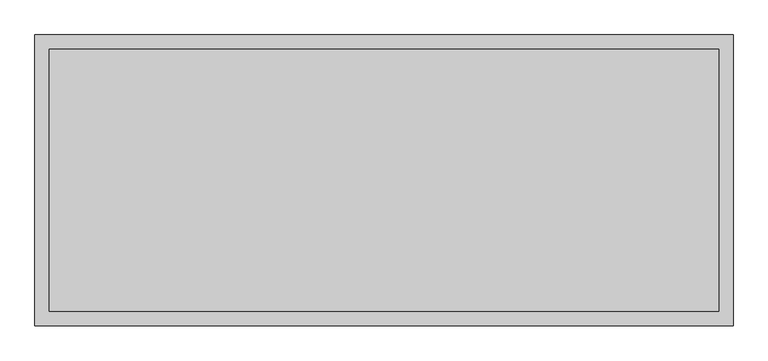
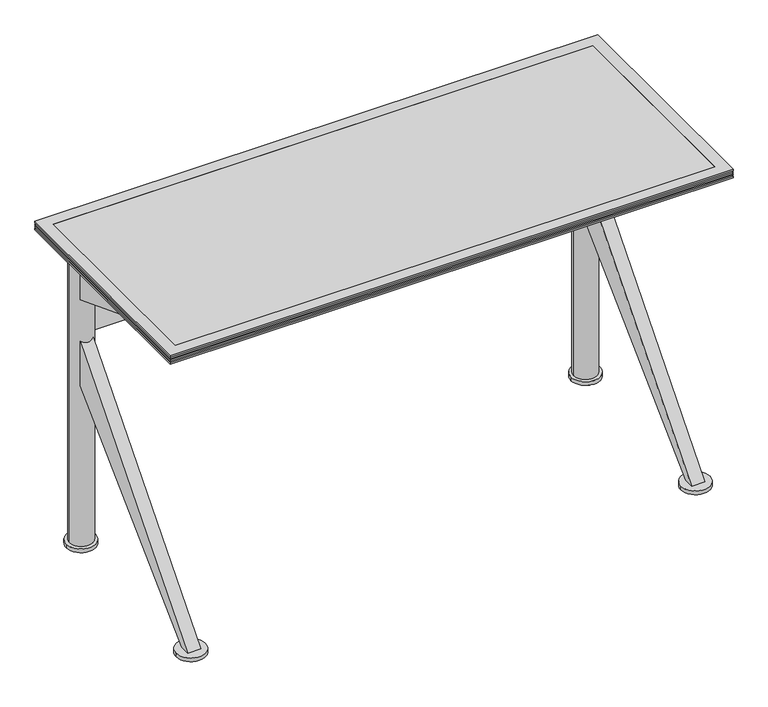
"""IFC4 building model written with IfcOpenShell, lengths in millimetres: furniture geometry, Coalesse_AM_Table_Conference_Ballet_Rectangular_KBase : Non Folding - 48L x 20W."""

from ifc_helpers import new_model, si_unit, point, frame, frame_2d, origin, origin_with_axes, place, context, project, spatial, polyline, circle_curve, trimmed, segment, composite_curve, outline, extrude, faceted_brep, source, transform, mapped, element, save
from ifc_brep_helpers import plane_surface, cylinder_surface, advanced_brep


def furniture_f6d11dd5(model_context):
    return source(origin(), model_context, "Body", "SolidModel", [
        extrude(outline(composite_curve([segment(trimmed(circle_curve(frame_2d((-547.0092495, -222.25)), 25.4), [point((-572.4092495, -222.25))], [point((-521.6092495, -222.25))], False, "CARTESIAN"), True, "CONTINUOUS"), segment(trimmed(circle_curve(frame_2d((-547.0092495, -222.25)), 25.4), [point((-521.6092495, -222.25))], [point((-572.4092495, -222.25))], False, "CARTESIAN"), True, "CONTINUOUS")], self_intersect=False)), origin_with_axes(), (0.0, 0.0, 1.0), 4.2936144),
        extrude(outline(composite_curve([segment(trimmed(circle_curve(frame_2d((546.2624629, -222.25)), 25.4), [point((520.8624629, -222.25))], [point((571.6624629, -222.25))], False, "CARTESIAN"), True, "CONTINUOUS"), segment(trimmed(circle_curve(frame_2d((546.2624629, -222.25)), 25.4), [point((571.6624629, -222.25))], [point((520.8624629, -222.25))], False, "CARTESIAN"), True, "CONTINUOUS")], self_intersect=False)), origin_with_axes(), (0.0, 0.0, 1.0), 4.2936144),
        extrude(outline(composite_curve([segment(trimmed(circle_curve(frame_2d((546.2154995, 189.815286)), 25.4), [point((571.6154995, 189.815286))], [point((520.8154995, 189.815286))], False, "CARTESIAN"), True, "CONTINUOUS"), segment(trimmed(circle_curve(frame_2d((546.2154995, 189.815286)), 25.4), [point((520.8154995, 189.815286))], [point((571.6154995, 189.815286))], False, "CARTESIAN"), True, "CONTINUOUS")], self_intersect=False)), origin_with_axes(), (0.0, 0.0, 1.0), 4.2936144),
        extrude(outline(composite_curve([segment(trimmed(circle_curve(frame_2d((-547.0562129, 189.815286)), 25.4), [point((-521.6562129, 189.815286))], [point((-572.4562129, 189.815286))], False, "CARTESIAN"), True, "CONTINUOUS"), segment(trimmed(circle_curve(frame_2d((-547.0562129, 189.815286)), 25.4), [point((-572.4562129, 189.815286))], [point((-521.6562129, 189.815286))], False, "CARTESIAN"), True, "CONTINUOUS")], self_intersect=False)), origin_with_axes(), (0.0, 0.0, 1.0), 4.2936144),
        extrude(outline(composite_curve([segment(trimmed(circle_curve(frame_2d((546.2154995, 189.815286)), 31.75), [point((577.9654995, 189.815286))], [point((514.4654995, 189.815286))], False, "CARTESIAN"), True, "CONTINUOUS"), segment(trimmed(circle_curve(frame_2d((546.2154995, 189.815286)), 31.75), [point((514.4654995, 189.815286))], [point((577.9654995, 189.815286))], False, "CARTESIAN"), True, "CONTINUOUS")], self_intersect=False)), frame((0.0, 0.0, 4.2936144), z_axis=(0.0, 0.0, 1.0), x_axis=(1.0, 0.0, 0.0)), (0.0, 0.0, 1.0), 8.4063856),
        extrude(outline(composite_curve([segment(trimmed(circle_curve(frame_2d((-547.0562129, 189.815286)), 31.75), [point((-515.3062129, 189.815286))], [point((-578.8062129, 189.815286))], False, "CARTESIAN"), True, "CONTINUOUS"), segment(trimmed(circle_curve(frame_2d((-547.0562129, 189.815286)), 31.75), [point((-578.8062129, 189.815286))], [point((-515.3062129, 189.815286))], False, "CARTESIAN"), True, "CONTINUOUS")], self_intersect=False)), frame((0.0, 0.0, 4.2936144), z_axis=(0.0, 0.0, 1.0), x_axis=(1.0, 0.0, 0.0)), (0.0, 0.0, 1.0), 8.4063856),
        extrude(outline(polyline([(169.4656271, 577.7388634), (-142.874901, 698.5000242), (-111.124901, 698.5000242), (169.4656271, 641.3500242), (169.4656271, 577.7388634)])), frame((-560.4007845, 0.0, 0.0), z_axis=(1.0, 0.0, 0.0), x_axis=(0.0, 1.0, 0.0)), (0.0, 0.0, 1.0), 28.5877899),
        extrude(outline(polyline([(169.4656271, 381.0), (-211.1375951, 12.7), (-233.3624013, 12.7), (169.4656271, 482.7111245), (169.4656271, 381.0)])), frame((-560.4007845, 0.0, 0.0), z_axis=(1.0, 0.0, 0.0), x_axis=(0.0, 1.0, 0.0)), (0.0, 0.0, 1.0), 28.5877899),
        extrude(outline(polyline([(169.4656271, 577.7388634), (-142.874901, 698.5000242), (-111.124901, 698.5000242), (169.4656271, 641.3500242), (169.4656271, 577.7388634)])), frame((531.8121992, 0.0, 0.0), z_axis=(1.0, 0.0, 0.0), x_axis=(0.0, 1.0, 0.0)), (0.0, 0.0, 1.0), 28.575),
        extrude(outline(polyline([(169.4656271, 381.0), (-211.1375951, 12.7), (-233.3624013, 12.7), (169.4656271, 482.7111245), (169.4656271, 381.0)])), frame((531.8121992, 0.0, 0.0), z_axis=(1.0, 0.0, 0.0), x_axis=(0.0, 1.0, 0.0)), (0.0, 0.0, 1.0), 28.575),
        advanced_brep(
        [(524.1033169, 177.8000021, 568.3250121), (-524.1033169, 177.8000021, 568.3250121), (-524.1033169, 177.8000021, 492.1250121), (524.1033169, 177.8000021, 492.1250121), (-520.7003634, 190.5, 492.1250121), (-524.1032635, 203.1999052, 492.1250121), (524.1032635, 203.1999052, 492.1250121), (520.7003634, 190.5, 492.1250121), (-524.1032635, 203.1999052, 568.3250121), (524.1032635, 203.1999052, 568.3250121), (520.7003634, 190.5, 568.3250121), (-520.7003634, 190.5, 568.3250121), (-571.5003633, 190.5, 698.5000242), (-520.7003634, 190.5, 698.5000242), (520.7003634, 190.5, 698.5000242), (571.5003633, 190.5, 698.5000242), (-571.5003633, 190.5, 12.7), (-520.7003634, 190.5, 12.7), (520.7003634, 190.5, 12.7), (571.5003633, 190.5, 12.7)],
        [
            (0, 1),
            (1, 2),
            (2, 3),
            (3, 0),
            (2, 4, circle_curve(frame((-546.1003633, 190.5, 492.1250121), z_axis=(0.0, 0.0, 1.0), x_axis=(1.0, 0.0, 0.0)), 25.3999999)),
            (4, 5, circle_curve(frame((-546.1003633, 190.5, 492.1250121), z_axis=(0.0, 0.0, 1.0), x_axis=(1.0, 0.0, 0.0)), 25.3999999)),
            (5, 6),
            (6, 7, circle_curve(frame((546.1003633, 190.5, 492.1250121), z_axis=(0.0, 0.0, 1.0), x_axis=(1.0, 0.0, 0.0)), 25.3999999)),
            (7, 3, circle_curve(frame((546.1003633, 190.5, 492.1250121), z_axis=(0.0, 0.0, 1.0), x_axis=(1.0, 0.0, 0.0)), 25.3999999)),
            (5, 8),
            (8, 9),
            (9, 6),
            (0, 10, circle_curve(frame((546.1003633, 190.5, 568.3250121), z_axis=(0.0, 0.0, -1.0), x_axis=(1.0, 0.0, 0.0)), 25.3999999)),
            (10, 9, circle_curve(frame((546.1003633, 190.5, 568.3250121), z_axis=(0.0, 0.0, -1.0), x_axis=(1.0, 0.0, 0.0)), 25.3999999)),
            (8, 11, circle_curve(frame((-546.1003633, 190.5, 568.3250121), z_axis=(0.0, 0.0, -1.0), x_axis=(1.0, 0.0, 0.0)), 25.3999999)),
            (11, 1, circle_curve(frame((-546.1003633, 190.5, 568.3250121), z_axis=(0.0, 0.0, -1.0), x_axis=(1.0, 0.0, 0.0)), 25.3999999)),
            (12, 13, circle_curve(frame((-546.1003633, 190.5, 698.5000242), z_axis=(0.0, 0.0, 1.0), x_axis=(1.0, 0.0, 0.0)), 25.3999999)),
            (13, 12, circle_curve(frame((-546.1003633, 190.5, 698.5000242), z_axis=(0.0, 0.0, 1.0), x_axis=(1.0, 0.0, 0.0)), 25.3999999)),
            (14, 15, circle_curve(frame((546.1003633, 190.5, 698.5000242), z_axis=(0.0, 0.0, 1.0), x_axis=(1.0, 0.0, 0.0)), 25.3999999)),
            (15, 14, circle_curve(frame((546.1003633, 190.5, 698.5000242), z_axis=(0.0, 0.0, 1.0), x_axis=(1.0, 0.0, 0.0)), 25.3999999)),
            (16, 17, circle_curve(frame((-546.1003633, 190.5, 12.7), z_axis=(0.0, 0.0, -1.0), x_axis=(1.0, 0.0, 0.0)), 25.3999999)),
            (17, 16, circle_curve(frame((-546.1003633, 190.5, 12.7), z_axis=(0.0, 0.0, -1.0), x_axis=(1.0, 0.0, 0.0)), 25.3999999)),
            (18, 19, circle_curve(frame((546.1003633, 190.5, 12.7), z_axis=(0.0, 0.0, -1.0), x_axis=(1.0, 0.0, 0.0)), 25.3999999)),
            (19, 18, circle_curve(frame((546.1003633, 190.5, 12.7), z_axis=(0.0, 0.0, -1.0), x_axis=(1.0, 0.0, 0.0)), 25.3999999)),
            (12, 16),
            (17, 4),
            (11, 13),
            (14, 10),
            (7, 18),
            (19, 15),
        ],
        [
            plane_surface(frame((531.8121992, 177.8000021, 568.3250121), z_axis=(0.0, -1.0, 0.0), x_axis=(-1.0, 0.0, 0.0))),
            plane_surface(frame((531.8121992, 177.8000021, 492.1250121), z_axis=(0.0, 0.0, -1.0), x_axis=(-1.0, 0.0, 0.0))),
            plane_surface(frame((531.8121992, 203.1999052, 492.1250121), z_axis=(0.0, 1.0, 0.0), x_axis=(-1.0, 0.0, 0.0))),
            plane_surface(frame((531.8121992, 203.1999052, 568.3250121), z_axis=(0.0, 0.0, 1.0), x_axis=(-1.0, 0.0, 0.0))),
            plane_surface(frame((-520.7003634, 190.5, 698.5000242), z_axis=(0.0, 0.0, 1.0), x_axis=(0.0, 1.0, 0.0))),
            plane_surface(frame((-520.7003634, 190.5, 12.7), z_axis=(0.0, 0.0, -1.0), x_axis=(0.0, -1.0, 0.0))),
            cylinder_surface(frame((-546.1003633, 190.5, 12.7), z_axis=(0.0, 0.0, 1.0), x_axis=(1.0, 0.0, 0.0)), 25.3999999),
            cylinder_surface(frame((546.1003633, 190.5, 0.0), z_axis=(0.0, 0.0, 1.0), x_axis=(1.0, 0.0, 0.0)), 25.3999999),
        ],
        [
            (0, [[1, 2, 3, 4]]),
            (1, [[-3, 5, 6, 7, 8, 9]]),
            (2, [[-7, 10, 11, 12]]),
            (3, [[-1, 13, 14, -11, 15, 16]]),
            (4, [[17, 18]]),
            (4, [[19, 20]]),
            (5, [[21, 22]]),
            (5, [[23, 24]]),
            (6, [[-17, 25, -22, 26, -5, -2, -16, 27]]),
            (6, [[-18, -27, -15, -10, -6, -26, -21, -25]]),
            (7, [[-19, 28, -13, -4, -9, 29, -24, 30]]),
            (7, [[-20, -30, -23, -29, -8, -12, -14, -28]]),
        ],
    ),
        extrude(outline(composite_curve([segment(trimmed(circle_curve(frame_2d((-547.0092495, -222.25)), 31.75), [point((-578.7592495, -222.25))], [point((-515.2592495, -222.25))], False, "CARTESIAN"), True, "CONTINUOUS"), segment(trimmed(circle_curve(frame_2d((-547.0092495, -222.25)), 31.75), [point((-515.2592495, -222.25))], [point((-578.7592495, -222.25))], False, "CARTESIAN"), True, "CONTINUOUS")], self_intersect=False)), frame((0.0, 0.0, 4.2936144), z_axis=(0.0, 0.0, 1.0), x_axis=(1.0, 0.0, 0.0)), (0.0, 0.0, 1.0), 8.4063856),
        extrude(outline(composite_curve([segment(trimmed(circle_curve(frame_2d((546.2624629, -222.25)), 31.75), [point((514.5124629, -222.25))], [point((578.0124629, -222.25))], False, "CARTESIAN"), True, "CONTINUOUS"), segment(trimmed(circle_curve(frame_2d((546.2624629, -222.25)), 31.75), [point((578.0124629, -222.25))], [point((514.5124629, -222.25))], False, "CARTESIAN"), True, "CONTINUOUS")], self_intersect=False)), frame((0.0, 0.0, 4.2936144), z_axis=(0.0, 0.0, 1.0), x_axis=(1.0, 0.0, 0.0)), (0.0, 0.0, 1.0), 8.4063856),
        faceted_brep([(-609.6003633, 254.0, 704.85), (-584.2003876, 228.6000242, 698.5000242), (-584.2003876, -228.5999516, 698.5000242), (-609.6003633, -253.9999273, 704.85), (-609.6003633, 254.0, 708.0250242), (-609.6003633, -253.9999273, 708.0250242), (-606.4253755, 250.8250121, 709.6125), (-606.4253755, -250.8249394, 709.6125), (-609.6003633, 254.0, 711.1999758), (-609.6003633, -253.9999273, 711.1999758), (-606.4253755, 250.8250121, 712.7875242), (-606.4253755, -250.8249394, 712.7875242), (-609.6003633, 254.0, 714.375), (-609.6003633, -253.9999273, 714.375), (-606.4253755, 250.8250121, 715.9624758), (-606.4253755, -250.8249394, 715.9624758), (-609.6003633, 254.0, 717.5500242), (-609.6003633, -253.9999273, 717.5500242), (-606.4253755, 250.8250121, 719.1375), (-606.4253755, -250.8249394, 719.1375), (-609.6003633, 254.0, 720.7249758), (-609.6003633, -253.9999273, 720.7249758), (-609.6003633, 254.0, 723.9), (-609.6003633, -253.9999273, 723.9), (-584.2003876, 228.6000242, 723.9), (-584.2003876, -228.5999516, 723.9), (584.1998062, -228.5999516, 698.5000242), (609.599782, -253.9999273, 704.85), (609.599782, -253.9999273, 708.0250242), (606.4247941, -250.8249394, 709.6125), (609.599782, -253.9999273, 711.1999758), (606.4247941, -250.8249394, 712.7875242), (609.599782, -253.9999273, 714.375), (606.4247941, -250.8249394, 715.9624758), (609.599782, -253.9999273, 717.5500242), (606.4247941, -250.8249394, 719.1375), (609.599782, -253.9999273, 720.7249758), (609.599782, -253.9999273, 723.9), (584.1998062, -228.5999516, 723.9), (584.1998062, 228.6000242, 698.5000242), (609.599782, 254.0, 704.85), (609.599782, 254.0, 708.0250242), (606.4247941, 250.8250121, 709.6125), (609.599782, 254.0, 711.1999758), (606.4247941, 250.8250121, 712.7875242), (609.599782, 254.0, 714.375), (606.4247941, 250.8250121, 715.9624758), (609.599782, 254.0, 717.5500242), (606.4247941, 250.8250121, 719.1375), (609.599782, 254.0, 720.7249758), (609.599782, 254.0, 723.9), (584.1998062, 228.6000242, 723.9)], [[[0, 1, 2, 3]], [[4, 0, 3, 5]], [[6, 4, 5, 7]], [[8, 6, 7, 9]], [[10, 8, 9, 11]], [[12, 10, 11, 13]], [[14, 12, 13, 15]], [[16, 14, 15, 17]], [[18, 16, 17, 19]], [[20, 18, 19, 21]], [[22, 20, 21, 23]], [[1, 24, 25, 2]], [[3, 2, 26, 27]], [[5, 3, 27, 28]], [[7, 5, 28, 29]], [[9, 7, 29, 30]], [[11, 9, 30, 31]], [[13, 11, 31, 32]], [[15, 13, 32, 33]], [[17, 15, 33, 34]], [[19, 17, 34, 35]], [[21, 19, 35, 36]], [[23, 21, 36, 37]], [[2, 25, 38, 26]], [[27, 26, 39, 40]], [[28, 27, 40, 41]], [[29, 28, 41, 42]], [[30, 29, 42, 43]], [[31, 30, 43, 44]], [[32, 31, 44, 45]], [[33, 32, 45, 46]], [[34, 33, 46, 47]], [[35, 34, 47, 48]], [[36, 35, 48, 49]], [[37, 36, 49, 50]], [[26, 38, 51, 39]], [[40, 39, 1, 0]], [[41, 40, 0, 4]], [[42, 41, 4, 6]], [[43, 42, 6, 8]], [[44, 43, 8, 10]], [[45, 44, 10, 12]], [[46, 45, 12, 14]], [[47, 46, 14, 16]], [[48, 47, 16, 18]], [[49, 48, 18, 20]], [[50, 49, 20, 22]], [[23, 37, 50, 22], [24, 51, 38, 25]], [[39, 51, 24, 1]]]),
        extrude(outline(polyline([(584.1998062, 228.6000242), (584.1998062, -228.5999516), (-584.2003876, -228.5999516), (-584.2003876, 228.6000242), (584.1998062, 228.6000242)])), frame((0.0, 0.0, 704.85), z_axis=(0.0, 0.0, 1.0), x_axis=(1.0, 0.0, 0.0)), (0.0, 0.0, 1.0), 19.05),
    ])


if __name__ == "__main__":
    model = new_model("IFC4")
    model_context = context("Model", 3, world=origin())
    ifc_project = project(units=[si_unit("LENGTHUNIT", "METRE", prefix="MILLI")], contexts=[model_context])
    site = spatial("IfcSite", under=ifc_project)
    building = spatial("IfcBuilding", under=site)
    placement = place(None, origin())
    furniture_shape = furniture_f6d11dd5(model_context)
    element("IfcFurniture", 1, ObjectType="Coalesse_AM_Table_Conference_Ballet_Rectangular_KBase : Non Folding - 48L x 20W", at=placement, inside=building, context=model_context, shape_type="MappedRepresentation", body=[
        mapped(furniture_shape, transform((0.0, 0.0, 0.0), x_axis=(1.0, 0.0, 0.0), y_axis=(0.0, 1.0, 0.0), z_axis=(0.0, 0.0, 1.0))),
    ])
    save(model, "model.ifc")
